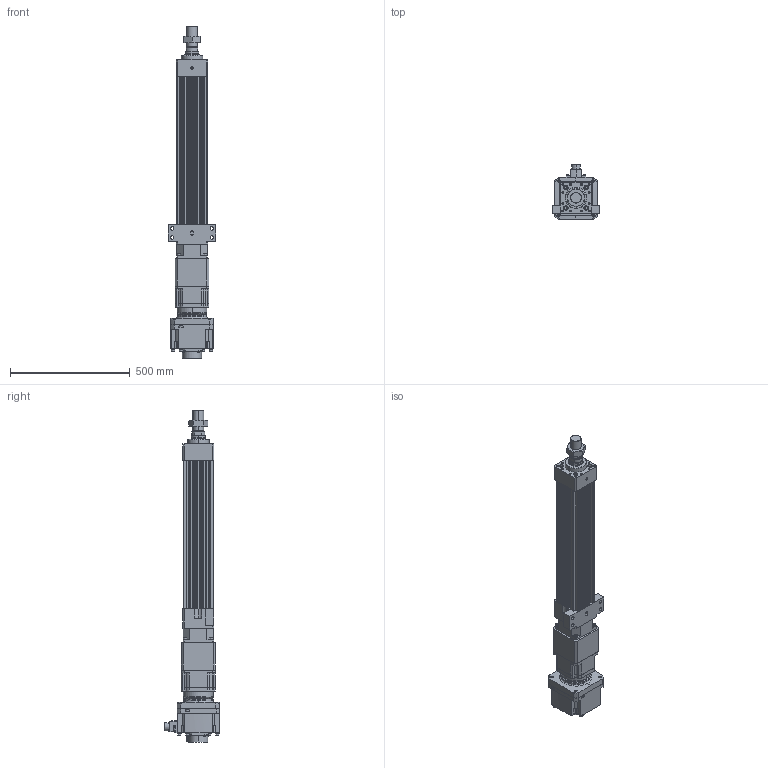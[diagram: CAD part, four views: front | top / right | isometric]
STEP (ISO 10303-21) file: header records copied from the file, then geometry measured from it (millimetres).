
FILE_DESCRIPTION (( 'STEP AP203' ), '1' );
FILE_NAME ('HES130FS(HS)-S400-W020G00-M-FFC.STEP', '2023-01-31T03:13:11', ( 'tms' ), ( '' ), 'SwSTEP 2.0', 'SolidWorks 2013', '' );
FILE_SCHEMA (( 'CONFIG_CONTROL_DESIGN' ));
Length unit declared in the file: millimetre
Products named in the file (9): AB1421; HG-SR202; HES130FS(HS)-S400-W020G00-M-FFC; P1301500001; M45X1.5P; HES130 ROD M ST400; AB142-003[HG-SR352]; P0403500801; HES130-S400-G142-FFC
Assembly tree (8 placements, depth 3):
  HES130FS(HS)-S400-W020G00-M-FFC
    HES130-S400-G142-FFC
    HES130 ROD M ST400
    M45X1.5P
    AB142-003[HG-SR352]
      AB1421
      P1301500001
      P0403500801
    HG-SR202
Bounding box: 200 x 228.85 x 1387.5 mm (x, y, z)
Volume: 12300481.4 mm3; surface area: 1580417.6 mm2
Topology: 4 solids, 22 shells, 1546 faces, 3982 edges, 2565 vertices
Faces by surface type: cylinder 694, plane 586, cone 184, bspline 76, torus 6
Entity records: 55838 total; most frequent: CARTESIAN_POINT 16862, DIRECTION 8160, ORIENTED_EDGE 7822, EDGE_CURVE 3933, AXIS2_PLACEMENT_3D 3080, VERTEX_POINT 2565, VECTOR 2000, LINE 2000
